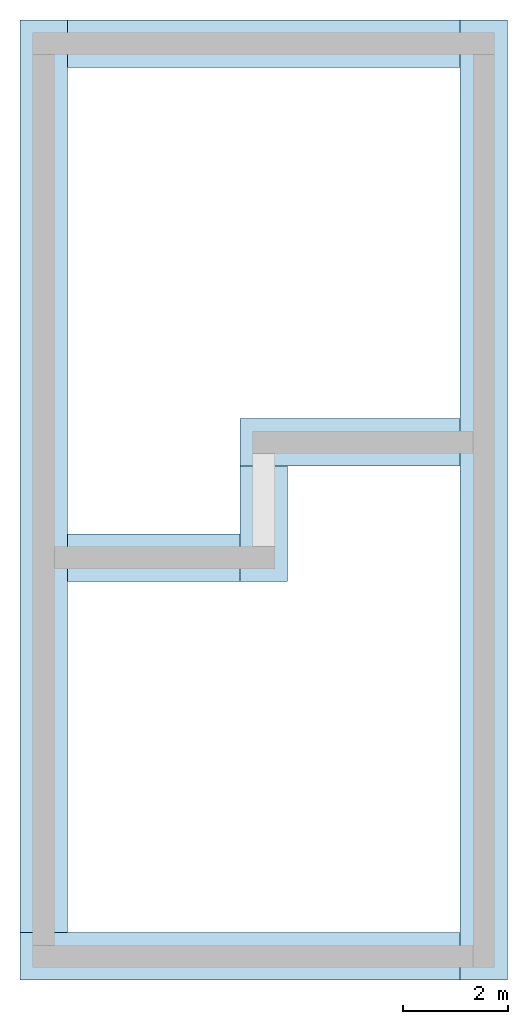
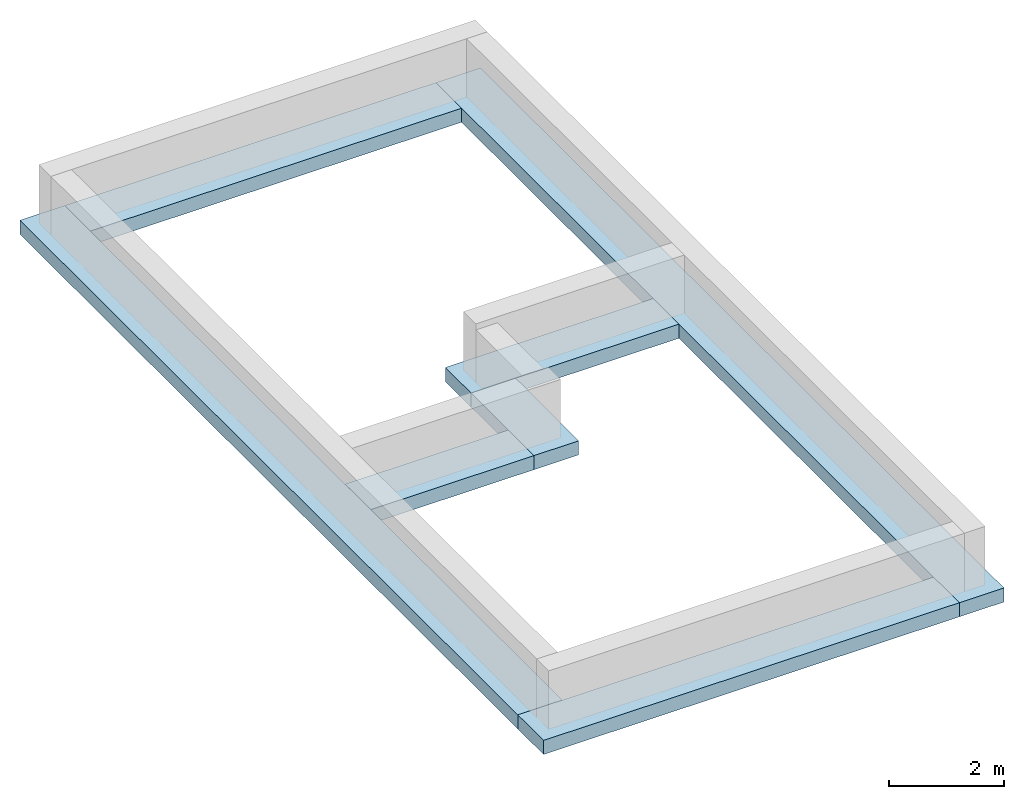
# One storey, incomplete: 7 footings.
"""IFC4 building model written with IfcOpenShell, lengths in metres."""

from ifc_helpers import new_model, entity, si_unit, converted_unit, frame, frame_2d, origin, origin_2d_with_axis, place, context, project, spatial, rectangle, extrude, element, save


model = new_model("IFC4")

# Units and contexts
model_context = context("Model", 3, precision=1e-09, world=origin())
plan_context = context("Plan", 3, precision=1e-09, world=origin())
ifc_project = project(units=[si_unit("LENGTHUNIT", "METRE"), si_unit("AREAUNIT", "SQUARE_METRE"), si_unit("VOLUMEUNIT", "CUBIC_METRE"), converted_unit("PLANEANGLEUNIT", "DEGREE", entity("IfcRatioMeasure", 0.01745329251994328), si_unit("PLANEANGLEUNIT", "RADIAN"), dimensions=[0, 0, 0, 0, 0, 0, 0]), si_unit("TIMEUNIT", "SECOND")], contexts=[model_context, plan_context])

# Site, building, storey
site_placement = place(None, origin())
site = spatial("IfcSite", under=ifc_project, at=site_placement, Name="Default", CompositionType="ELEMENT")
building_placement = place(site_placement, origin())
building = spatial("IfcBuilding", under=site, at=building_placement, CompositionType="ELEMENT")
storey_placement = place(building_placement, frame((0.0, 0.0, -1.25)))
storey = spatial("IfcBuildingStorey", under=building, at=storey_placement, Name="T/FDN", CompositionType="ELEMENT", Elevation=-1.25)

# Footings
footing_1_placement = place(storey_placement, origin())
element("IfcFooting", 1, at=footing_1_placement, inside=storey, Name="Wall Foundation:Bearing Footing - 900 x 300", ObjectType="Wall Foundation:Bearing Footing - 900 x 300", PredefinedType="STRIP_FOOTING", context=model_context, shape_type="SweptSolid", body=[
    extrude(rectangle(XDim=18.28299999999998, YDim=0.9, at=frame_2d((0.2750000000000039, 0.2249999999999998), x_axis=(1.0, 0.0))), frame((8.36649999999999, -8.625000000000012, -0.3), z_axis=(0.0, 0.0, 1.0), x_axis=(0.0, -1.0, 0.0)), (0.0, 0.0, 1.0), 0.3),
])
footing_2_placement = place(storey_placement, origin())
element("IfcFooting", 2, at=footing_2_placement, inside=storey, Name="Wall Foundation:Bearing Footing - 900 x 300", ObjectType="Wall Foundation:Bearing Footing - 900 x 300", PredefinedType="STRIP_FOOTING", context=model_context, shape_type="SweptSolid", body=[
    extrude(rectangle(XDim=8.382999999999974, YDim=0.9000000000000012, at=frame_2d((0.6582999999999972, -0.08999999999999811), x_axis=(1.0, 0.0))), frame((3.291699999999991, -17.5015, -0.3)), (0.0, 0.0, 1.0), 0.3),
])
footing_3_placement = place(storey_placement, origin())
element("IfcFooting", 3, at=footing_3_placement, inside=storey, Name="Wall Foundation:Bearing Footing - 900 x 300", ObjectType="Wall Foundation:Bearing Footing - 900 x 300", PredefinedType="STRIP_FOOTING", context=model_context, shape_type="SweptSolid", body=[
    extrude(rectangle(XDim=17.38299999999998, YDim=0.9000000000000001, at=frame_2d((0.670214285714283, -0.192857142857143), x_axis=(1.0, 0.0))), frame((0.4013571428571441, -7.779785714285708, -0.2999999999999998), z_axis=(0.0, 0.0, 1.0), x_axis=(0.0, -1.0, 0.0)), (0.0, 0.0, 1.0), 0.3),
])
footing_4_placement = place(storey_placement, origin())
element("IfcFooting", 4, at=footing_4_placement, inside=storey, Name="Wall Foundation:Bearing Footing - 900 x 300", ObjectType="Wall Foundation:Bearing Footing - 900 x 300", PredefinedType="STRIP_FOOTING", context=model_context, shape_type="SweptSolid", body=[
    extrude(rectangle(XDim=7.483000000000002, YDim=0.9, at=origin_2d_with_axis()), frame((4.400000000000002, -0.2085000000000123, -0.3), z_axis=(0.0, 0.0, 1.0), x_axis=(-1.0, 0.0, 0.0)), (0.0, 0.0, 1.0), 0.3),
])
footing_5_placement = place(storey_placement, origin())
element("IfcFooting", 5, at=footing_5_placement, inside=storey, Name="Wall Foundation:Bearing Footing - 900 x 300", ObjectType="Wall Foundation:Bearing Footing - 900 x 300", PredefinedType="STRIP_FOOTING", context=model_context, shape_type="SweptSolid", body=[
    extrude(rectangle(XDim=4.1915, YDim=0.9000000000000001, at=frame_2d((-0.2391499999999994, -0.08999999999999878), x_axis=(1.0, 0.0))), frame((5.806599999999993, -7.889999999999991, -0.3), z_axis=(0.0, 0.0, 1.0), x_axis=(-1.0, 0.0, 0.0)), (0.0, 0.0, 1.0), 0.3),
])
footing_6_placement = place(storey_placement, origin())
element("IfcFooting", 6, at=footing_6_placement, inside=storey, Name="Wall Foundation:Bearing Footing - 900 x 300", ObjectType="Wall Foundation:Bearing Footing - 900 x 300", PredefinedType="STRIP_FOOTING", context=model_context, shape_type="SweptSolid", body=[
    extrude(rectangle(XDim=2.200000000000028, YDim=0.9000000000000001, at=frame_2d((0.04000000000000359, -0.08999999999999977), x_axis=(1.0, 0.0))), frame((4.309999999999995, -9.390000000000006, -0.3), z_axis=(0.0, 0.0, 1.0), x_axis=(0.0, 1.0, 0.0)), (0.0, 0.0, 1.0), 0.3),
])
footing_7_placement = place(storey_placement, origin())
element("IfcFooting", 7, at=footing_7_placement, inside=storey, Name="Wall Foundation:Bearing Footing - 900 x 300", ObjectType="Wall Foundation:Bearing Footing - 900 x 300", PredefinedType="STRIP_FOOTING", context=model_context, shape_type="SweptSolid", body=[
    extrude(rectangle(XDim=3.291499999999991, YDim=0.899999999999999, at=origin_2d_with_axis()), frame((2.304249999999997, -10.0, -0.3)), (0.0, 0.0, 1.0), 0.3),
])

save(model, "model.ifc")
